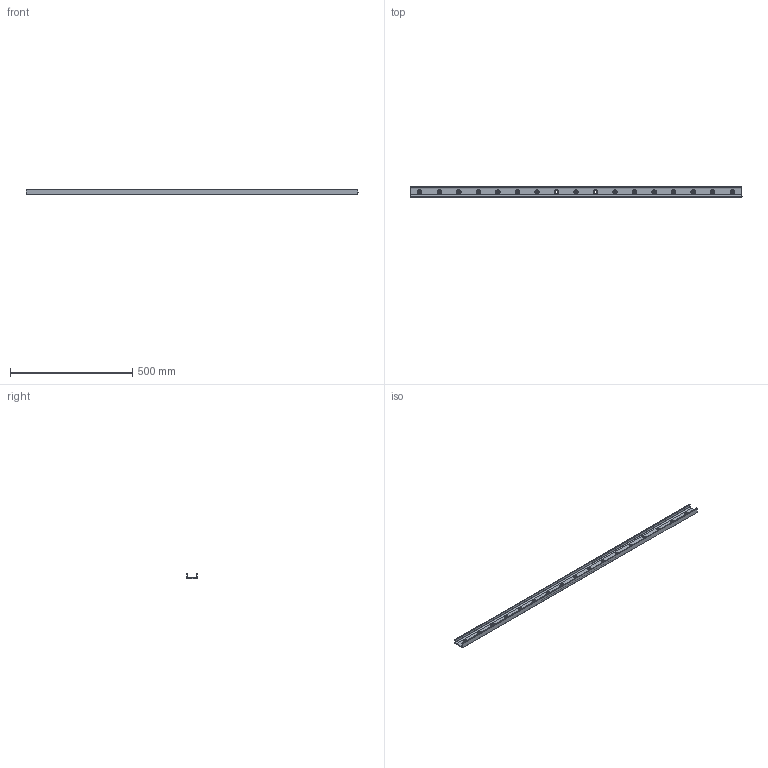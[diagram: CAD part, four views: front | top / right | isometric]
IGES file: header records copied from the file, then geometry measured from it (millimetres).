
Start section: SolidWorks IGES file using analytic representation for surfaces
Global section: file name: C:\Users\IanO\Desktop\43\L1943.ULC43_v2_20180121_IGES\L1943.ULC43-1360.igs; native system: SolidWorks 2017; preprocessor: SolidWorks 2017; author: IanO; date: 190121.084723; units: millimetre
Bounding box: 1360 x 43 x 21 mm (x, y, z)
Surface area: 213628 mm2 (no closed solid volume)
Topology: 0 solids, 0 shells, 111 faces, 2742 edges, 2742 vertices
Faces by surface type: revolution 81, bspline 30
